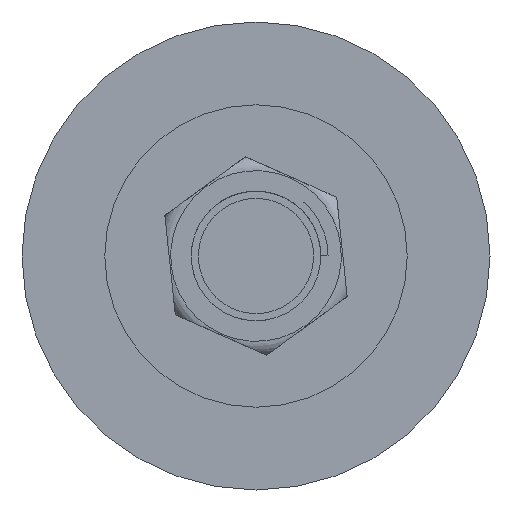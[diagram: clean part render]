
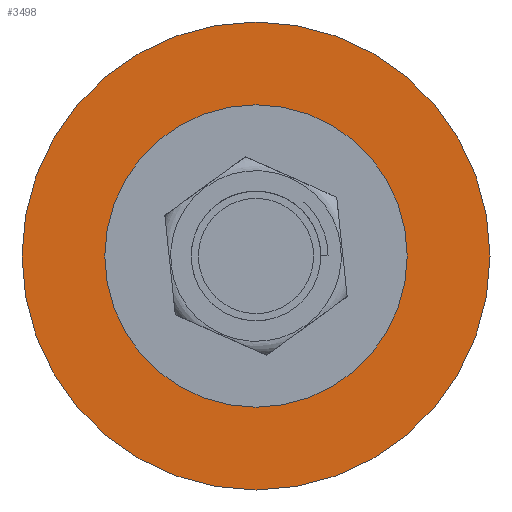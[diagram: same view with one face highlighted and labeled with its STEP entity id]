
A CAD part, front view. The second image highlights one B-rep face of the part: STEP entity #3498.
In plain terms, the highlighted planar face has unit normal (0, -1, 0).
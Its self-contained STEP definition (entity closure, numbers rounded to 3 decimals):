
#580 = VERTEX_POINT ( 'NONE', #13030 ) ;
#971 = EDGE_CURVE ( 'NONE', #4158, #5514, #4209, .T. ) ;
#1068 = DIRECTION ( 'NONE',  ( 0., 0., -1. ) ) ;
#2087 = ORIENTED_EDGE ( 'NONE', *, *, #13082, .F. ) ;
#2328 = CARTESIAN_POINT ( 'NONE',  ( 0., 0., 0. ) ) ;
#3106 = ORIENTED_EDGE ( 'NONE', *, *, #14213, .T. ) ;
#3498 = ADVANCED_FACE ( 'NONE', ( #7480, #7920 ), #14443, .T. ) ;
#3879 = DIRECTION ( 'NONE',  ( 0., 0., -1. ) ) ;
#4006 = DIRECTION ( 'NONE',  ( 0., 0., -1. ) ) ;
#4107 = VERTEX_POINT ( 'NONE', #5365 ) ;
#4158 = VERTEX_POINT ( 'NONE', #9497 ) ;
#4209 = CIRCLE ( 'NONE', #9091, 32.5 ) ;
#4354 = ORIENTED_EDGE ( 'NONE', *, *, #971, .T. ) ;
#4836 = AXIS2_PLACEMENT_3D ( 'NONE', #10969, #10911, #4006 ) ;
#5185 = DIRECTION ( 'NONE',  ( 0., -1., 0. ) ) ;
#5365 = CARTESIAN_POINT ( 'NONE',  ( 0., 0., -21. ) ) ;
#5514 = VERTEX_POINT ( 'NONE', #13708 ) ;
#6449 = CARTESIAN_POINT ( 'NONE',  ( 0., 0., 0. ) ) ;
#6472 = CARTESIAN_POINT ( 'NONE',  ( 0., 0., 0. ) ) ;
#7480 = FACE_BOUND ( 'NONE', #12215, .T. ) ;
#7633 = AXIS2_PLACEMENT_3D ( 'NONE', #6472, #13193, #12053 ) ;
#7920 = FACE_OUTER_BOUND ( 'NONE', #15055, .T. ) ;
#7952 = DIRECTION ( 'NONE',  ( 0., 0., -1. ) ) ;
#8554 = CIRCLE ( 'NONE', #4836, 32.5 ) ;
#9091 = AXIS2_PLACEMENT_3D ( 'NONE', #2328, #5185, #3879 ) ;
#9497 = CARTESIAN_POINT ( 'NONE',  ( 0., 0., 32.5 ) ) ;
#10734 = CIRCLE ( 'NONE', #16362, 21. ) ;
#10764 = AXIS2_PLACEMENT_3D ( 'NONE', #17624, #13556, #7952 ) ;
#10911 = DIRECTION ( 'NONE',  ( 0., -1., 0. ) ) ;
#10969 = CARTESIAN_POINT ( 'NONE',  ( 0., 0., 0. ) ) ;
#12053 = DIRECTION ( 'NONE',  ( 0., 0., -1. ) ) ;
#12215 = EDGE_LOOP ( 'NONE', ( #14692, #2087 ) ) ;
#13030 = CARTESIAN_POINT ( 'NONE',  ( 0., 0., 21. ) ) ;
#13082 = EDGE_CURVE ( 'NONE', #580, #4107, #10734, .T. ) ;
#13193 = DIRECTION ( 'NONE',  ( 0., -1., 0. ) ) ;
#13556 = DIRECTION ( 'NONE',  ( 0., -1., 0. ) ) ;
#13708 = CARTESIAN_POINT ( 'NONE',  ( 0., 0., -32.5 ) ) ;
#14213 = EDGE_CURVE ( 'NONE', #5514, #4158, #8554, .T. ) ;
#14443 = PLANE ( 'NONE',  #7633 ) ;
#14692 = ORIENTED_EDGE ( 'NONE', *, *, #17285, .F. ) ;
#15055 = EDGE_LOOP ( 'NONE', ( #3106, #4354 ) ) ;
#16362 = AXIS2_PLACEMENT_3D ( 'NONE', #6449, #17587, #1068 ) ;
#16867 = CIRCLE ( 'NONE', #10764, 21. ) ;
#17285 = EDGE_CURVE ( 'NONE', #4107, #580, #16867, .T. ) ;
#17587 = DIRECTION ( 'NONE',  ( 0., -1., 0. ) ) ;
#17624 = CARTESIAN_POINT ( 'NONE',  ( 0., 0., 0. ) ) ;
